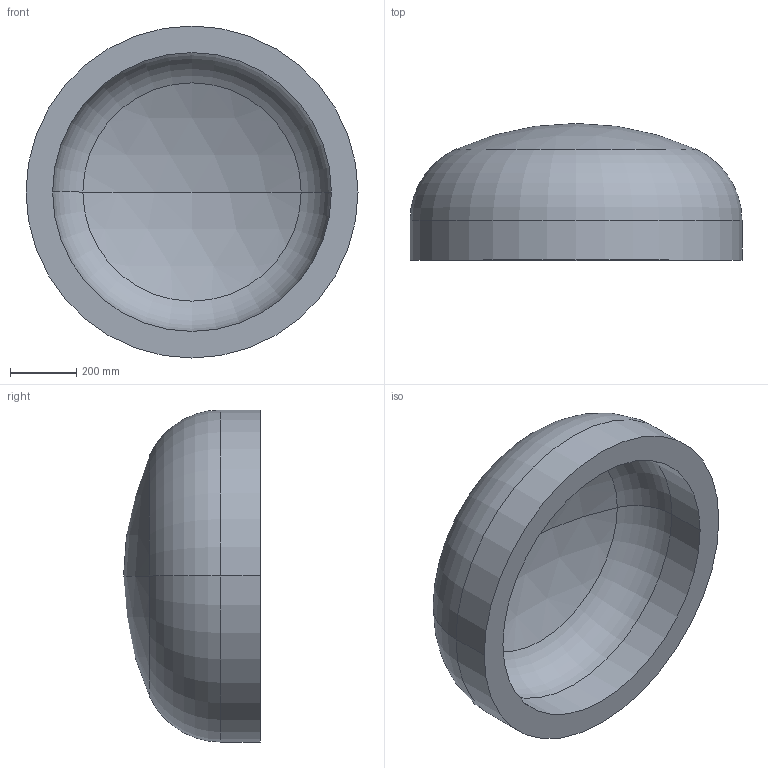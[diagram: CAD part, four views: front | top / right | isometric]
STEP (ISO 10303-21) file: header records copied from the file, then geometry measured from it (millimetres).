
FILE_DESCRIPTION (( 'STEP AP203' ), '1' );
FILE_NAME ('DIN 28013 Korbbogenform_-_Boden DIN 28013 - 1000 x 120 - I - s=80.step', '2016-07-01T08:54:29', ( '' ), ( '' ), 'SwSTEP 2.0', 'SolidWorks 2013', '' );
FILE_SCHEMA (( 'CONFIG_CONTROL_DESIGN' ));
Length unit declared in the file: millimetre
Products named in the file (1): DIN 28013 Korbbogenform_-_Boden DIN 28013 - 1000 x 120 - I - s=80
Bounding box: 1000 x 411.95 x 1000 mm (x, y, z)
Volume: 106560949.5 mm3; surface area: 2908648.6 mm2
Topology: 1 solids, 1 shells, 13 faces, 24 edges, 14 vertices
Faces by surface type: torus 4, cylinder 4, sphere 4, plane 1
Entity records: 407 total; most frequent: DIRECTION 72, CARTESIAN_POINT 52, ORIENTED_EDGE 48, AXIS2_PLACEMENT_3D 34, EDGE_CURVE 24, CIRCLE 20, VERTEX_POINT 14, EDGE_LOOP 14
